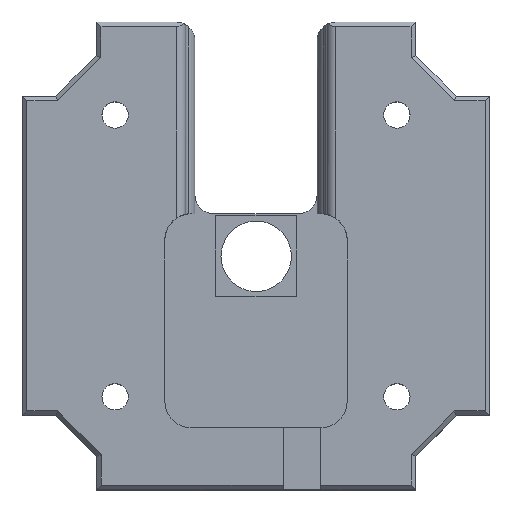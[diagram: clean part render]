
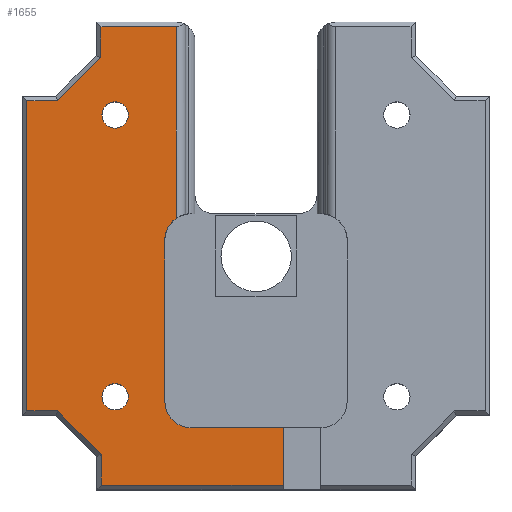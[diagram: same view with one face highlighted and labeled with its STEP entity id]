
A CAD part, top view. The second image highlights one B-rep face of the part: STEP entity #1655.
In plain terms, the highlighted planar face has unit normal (0, 0, 1).
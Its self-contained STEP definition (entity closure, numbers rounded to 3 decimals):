
#23=FACE_BOUND('',#236,.T.);
#24=FACE_BOUND('',#237,.T.);
#45=PLANE('',#1799);
#134=FACE_OUTER_BOUND('',#235,.T.);
#235=EDGE_LOOP('',(#1321,#1322,#1323,#1324,#1325,#1326,#1327,#1328,#1329,
#1330,#1331,#1332,#1333,#1334,#1335));
#236=EDGE_LOOP('',(#1336));
#237=EDGE_LOOP('',(#1337));
#323=CIRCLE('',#1773,2.807);
#330=CIRCLE('',#1791,1.4);
#331=CIRCLE('',#1794,1.4);
#332=CIRCLE('',#1800,2.807);
#407=LINE('',#2598,#601);
#421=LINE('',#2631,#615);
#429=LINE('',#2652,#623);
#430=LINE('',#2655,#624);
#431=LINE('',#2658,#625);
#432=LINE('',#2660,#626);
#433=LINE('',#2662,#627);
#434=LINE('',#2664,#628);
#435=LINE('',#2666,#629);
#436=LINE('',#2668,#630);
#437=LINE('',#2670,#631);
#438=LINE('',#2672,#632);
#439=LINE('',#2673,#633);
#601=VECTOR('',#2031,10.);
#615=VECTOR('',#2059,10.);
#623=VECTOR('',#2085,10.);
#624=VECTOR('',#2088,10.);
#625=VECTOR('',#2091,10.);
#626=VECTOR('',#2092,10.);
#627=VECTOR('',#2093,10.);
#628=VECTOR('',#2094,10.);
#629=VECTOR('',#2095,10.);
#630=VECTOR('',#2096,10.);
#631=VECTOR('',#2097,10.);
#632=VECTOR('',#2098,10.);
#633=VECTOR('',#2099,10.);
#802=VERTEX_POINT('',#2549);
#803=VERTEX_POINT('',#2560);
#813=VERTEX_POINT('',#2590);
#816=VERTEX_POINT('',#2596);
#828=VERTEX_POINT('',#2630);
#830=VERTEX_POINT('',#2636);
#831=VERTEX_POINT('',#2642);
#832=VERTEX_POINT('',#2650);
#833=VERTEX_POINT('',#2654);
#834=VERTEX_POINT('',#2656);
#835=VERTEX_POINT('',#2659);
#836=VERTEX_POINT('',#2661);
#837=VERTEX_POINT('',#2663);
#838=VERTEX_POINT('',#2665);
#839=VERTEX_POINT('',#2667);
#840=VERTEX_POINT('',#2669);
#841=VERTEX_POINT('',#2671);
#968=EDGE_CURVE('',#803,#802,#323,.T.);
#986=EDGE_CURVE('',#813,#816,#407,.T.);
#1003=EDGE_CURVE('',#813,#828,#421,.T.);
#1006=EDGE_CURVE('',#830,#830,#330,.T.);
#1009=EDGE_CURVE('',#831,#831,#331,.T.);
#1014=EDGE_CURVE('',#832,#802,#429,.T.);
#1015=EDGE_CURVE('',#816,#833,#430,.T.);
#1016=EDGE_CURVE('',#833,#834,#332,.T.);
#1017=EDGE_CURVE('',#834,#803,#431,.T.);
#1018=EDGE_CURVE('',#835,#832,#432,.T.);
#1019=EDGE_CURVE('',#836,#835,#433,.T.);
#1020=EDGE_CURVE('',#837,#836,#434,.T.);
#1021=EDGE_CURVE('',#838,#837,#435,.T.);
#1022=EDGE_CURVE('',#839,#838,#436,.T.);
#1023=EDGE_CURVE('',#840,#839,#437,.T.);
#1024=EDGE_CURVE('',#841,#840,#438,.T.);
#1025=EDGE_CURVE('',#828,#841,#439,.T.);
#1321=ORIENTED_EDGE('',*,*,#986,.T.);
#1322=ORIENTED_EDGE('',*,*,#1015,.T.);
#1323=ORIENTED_EDGE('',*,*,#1016,.T.);
#1324=ORIENTED_EDGE('',*,*,#1017,.T.);
#1325=ORIENTED_EDGE('',*,*,#968,.T.);
#1326=ORIENTED_EDGE('',*,*,#1014,.F.);
#1327=ORIENTED_EDGE('',*,*,#1018,.F.);
#1328=ORIENTED_EDGE('',*,*,#1019,.F.);
#1329=ORIENTED_EDGE('',*,*,#1020,.F.);
#1330=ORIENTED_EDGE('',*,*,#1021,.F.);
#1331=ORIENTED_EDGE('',*,*,#1022,.F.);
#1332=ORIENTED_EDGE('',*,*,#1023,.F.);
#1333=ORIENTED_EDGE('',*,*,#1024,.F.);
#1334=ORIENTED_EDGE('',*,*,#1025,.F.);
#1335=ORIENTED_EDGE('',*,*,#1003,.F.);
#1336=ORIENTED_EDGE('',*,*,#1006,.T.);
#1337=ORIENTED_EDGE('',*,*,#1009,.T.);
#1655=ADVANCED_FACE('',(#134,#23,#24),#45,.F.);
#1773=AXIS2_PLACEMENT_3D('',#2561,#1997,#1998);
#1791=AXIS2_PLACEMENT_3D('',#2637,#2064,#2065);
#1794=AXIS2_PLACEMENT_3D('',#2643,#2072,#2073);
#1799=AXIS2_PLACEMENT_3D('',#2653,#2086,#2087);
#1800=AXIS2_PLACEMENT_3D('',#2657,#2089,#2090);
#1997=DIRECTION('center_axis',(0.,0.,
-1.));
#1998=DIRECTION('ref_axis',(0.,1.,0.));
#2031=DIRECTION('',(0.,1.,0.));
#2059=DIRECTION('',(-1.,0.,0.));
#2064=DIRECTION('center_axis',(0.,0.,
-1.));
#2065=DIRECTION('ref_axis',(1.,0.,0.));
#2072=DIRECTION('center_axis',(0.,0.,
-1.));
#2073=DIRECTION('ref_axis',(1.,0.,0.));
#2085=DIRECTION('',(0.,-1.,0.));
#2086=DIRECTION('center_axis',(0.,0.,
-1.));
#2087=DIRECTION('ref_axis',(-1.,0.,0.));
#2088=DIRECTION('',(-1.,0.,0.));
#2089=DIRECTION('center_axis',(0.,0.,
-1.));
#2090=DIRECTION('ref_axis',(-1.,0.,0.));
#2091=DIRECTION('',(0.,1.,0.));
#2092=DIRECTION('',(1.,0.,0.));
#2093=DIRECTION('',(0.,1.,0.));
#2094=DIRECTION('',(0.707,0.707,0.));
#2095=DIRECTION('',(1.,0.,0.));
#2096=DIRECTION('',(0.,1.,0.));
#2097=DIRECTION('',(-1.,0.,0.));
#2098=DIRECTION('',(-0.707,0.707,0.));
#2099=DIRECTION('',(0.,1.,0.));
#2549=CARTESIAN_POINT('',(-43.93,24.937,22.));
#2560=CARTESIAN_POINT('',(-45.137,22.63,22.));
#2561=CARTESIAN_POINT('Origin',(-42.33,22.63,22.));
#2590=CARTESIAN_POINT('',(-32.53,-3.47,22.));
#2596=CARTESIAN_POINT('',(-32.53,2.623,22.));
#2598=CARTESIAN_POINT('',(-32.53,7.586,22.));
#2630=CARTESIAN_POINT('',(-51.889,-3.47,22.));
#2631=CARTESIAN_POINT('',(-38.566,-3.47,22.));
#2636=CARTESIAN_POINT('',(-51.83,35.93,22.));
#2637=CARTESIAN_POINT('Origin',(-50.43,35.93,22.));
#2642=CARTESIAN_POINT('',(-51.83,5.93,22.));
#2643=CARTESIAN_POINT('Origin',(-50.43,5.93,22.));
#2650=CARTESIAN_POINT('',(-43.93,45.33,22.));
#2652=CARTESIAN_POINT('',(-43.93,33.38,22.));
#2653=CARTESIAN_POINT('Origin',(-58.501,20.93,22.));
#2654=CARTESIAN_POINT('',(-42.33,2.623,22.));
#2655=CARTESIAN_POINT('',(-43.516,2.623,22.));
#2656=CARTESIAN_POINT('',(-45.137,5.43,22.));
#2657=CARTESIAN_POINT('Origin',(-42.33,5.43,22.));
#2658=CARTESIAN_POINT('',(-45.137,13.18,22.));
#2659=CARTESIAN_POINT('',(-51.93,45.33,22.));
#2660=CARTESIAN_POINT('',(-55.366,45.33,22.));
#2661=CARTESIAN_POINT('',(-51.93,42.048,22.));
#2662=CARTESIAN_POINT('',(-51.93,33.38,22.));
#2663=CARTESIAN_POINT('',(-56.548,37.43,22.));
#2664=CARTESIAN_POINT('',(-58.925,35.052,22.));
#2665=CARTESIAN_POINT('',(-59.83,37.43,22.));
#2666=CARTESIAN_POINT('',(-57.628,37.43,22.));
#2667=CARTESIAN_POINT('',(-59.83,4.43,22.));
#2668=CARTESIAN_POINT('',(-59.83,12.53,22.));
#2669=CARTESIAN_POINT('',(-56.548,4.43,22.));
#2670=CARTESIAN_POINT('',(-59.416,4.43,22.));
#2671=CARTESIAN_POINT('',(-51.889,-0.23,22.));
#2672=CARTESIAN_POINT('',(-61.088,8.97,22.));
#2673=CARTESIAN_POINT('',(-51.889,10.247,22.));
